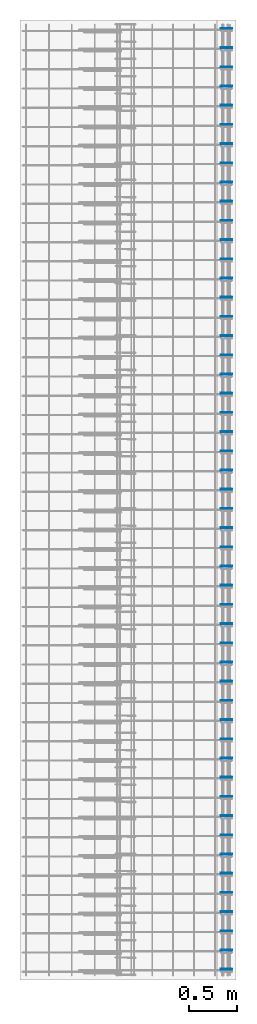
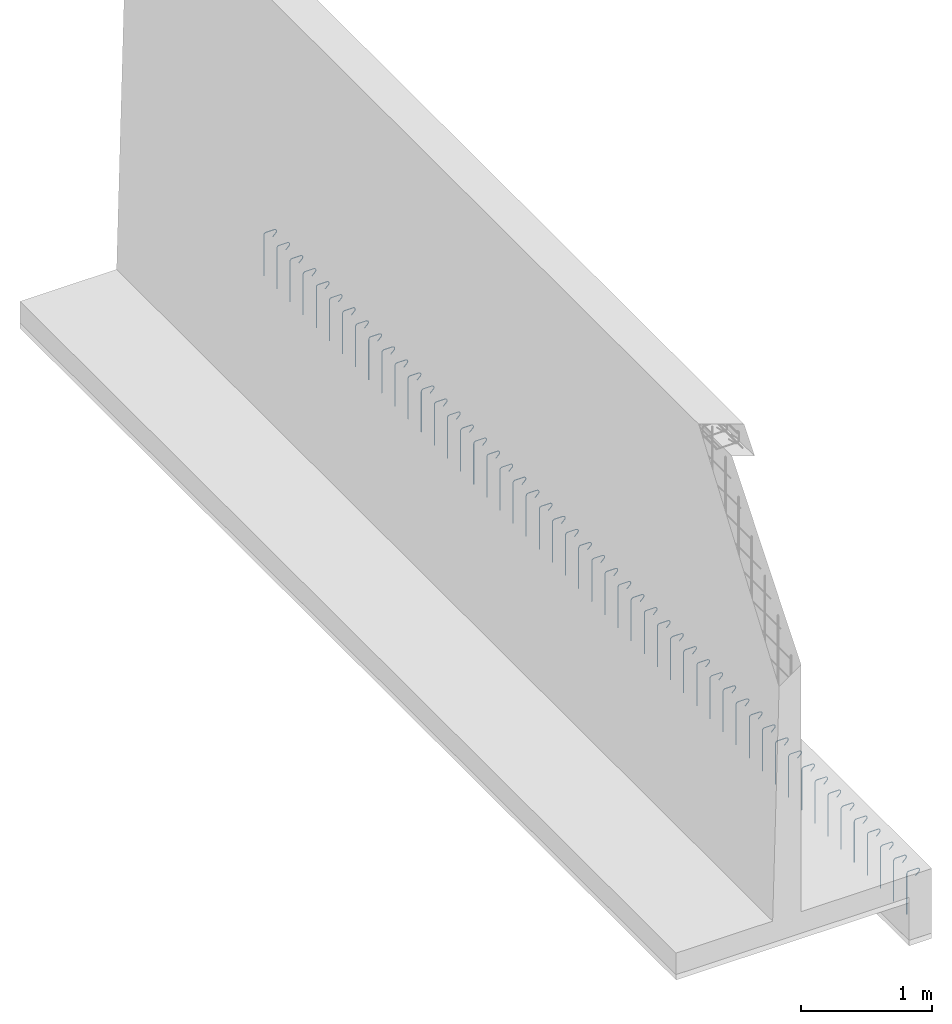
# One storey, part 3 of 4: 1 reinforcing bar.
"""IFC2X3 building model written with IfcOpenShell, lengths in millimetres."""

from ifc_helpers import new_model, entity, si_unit, converted_unit, frame, origin, origin_with_axes, place, context, subcontext, project, spatial, source, transform, mapped, material, element, save


model = new_model("IFC2X3")

# Units and contexts
model_context = context("Model", 3, precision=1e-05, world=origin())
plan_context = context("Plan", 3, precision=1e-05, world=origin())
body_context = subcontext(model_context, "Body", "Model", "MODEL_VIEW")
ifc_project = project(units=[si_unit("LENGTHUNIT", "METRE", prefix="MILLI"), converted_unit("PLANEANGLEUNIT", "DEGREE", entity("IfcPlaneAngleMeasure", 0.0174532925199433), si_unit("PLANEANGLEUNIT", "RADIAN"), dimensions=[0, 0, 0, 0, 0, 0, 0]), si_unit("AREAUNIT", "SQUARE_METRE"), si_unit("VOLUMEUNIT", "CUBIC_METRE")], contexts=[model_context, plan_context])

# Site, building, storey
site_placement = place(None, origin())
site = spatial("IfcSite", under=ifc_project, at=site_placement, Name="Leçon 3 : Ferraillage avancé", CompositionType="ELEMENT")
building_placement = place(site_placement, origin_with_axes())
building = spatial("IfcBuilding", under=site, at=building_placement, Name="01 soutènement", CompositionType="COMPLEX")
storey_placement = place(building_placement, origin_with_axes())
storey = spatial("IfcBuildingStorey", under=building, at=storey_placement, Name="corrigé", CompositionType="ELEMENT")

# Reinforcing bar
ifc_material = material(Name="haute adhérence")
shared_shape = source(origin(), body_context, "Body", "AdvancedSweptSolid", [
    entity("IfcSweptDiskSolid", entity("IfcPolyline", [entity("IfcCartesianPoint", [0.0, 0.0, 0.0]), entity("IfcCartesianPoint", [0.0, -9.094947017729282e-13, 376.8715574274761]), entity("IfcCartesianPoint", [0.4926180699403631, -9.094947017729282e-13, 380.4115813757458]), entity("IfcCartesianPoint", [1.693436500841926, -9.094947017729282e-13, 384.0541748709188]), entity("IfcCartesianPoint", [3.567499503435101, -9.094947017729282e-13, 387.4005669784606]), entity("IfcCartesianPoint", [5.857864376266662, -9.094947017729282e-13, 390.1421356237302]), entity("IfcCartesianPoint", [8.59943302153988, -9.094947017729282e-13, 392.4325004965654]), entity("IfcCartesianPoint", [11.945825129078, -9.094947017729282e-13, 394.3065634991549]), entity("IfcCartesianPoint", [15.5884186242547, -9.094947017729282e-13, 395.5073819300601]), entity("IfcCartesianPoint", [19.12844257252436, -9.094947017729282e-13, 396.0000000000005]), entity("IfcCartesianPoint", [92.87155742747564, -9.094947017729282e-13, 395.9999999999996]), entity("IfcCartesianPoint", [96.4115813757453, -9.094947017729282e-13, 395.5073819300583]), entity("IfcCartesianPoint", [100.0541748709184, -9.094947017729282e-13, 394.3065634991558]), entity("IfcCartesianPoint", [103.4005669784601, -9.094947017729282e-13, 392.4325004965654]), entity("IfcCartesianPoint", [106.1421356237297, -9.094947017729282e-13, 390.1421356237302]), entity("IfcCartesianPoint", [108.4325004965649, -9.094947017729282e-13, 387.4005669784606]), entity("IfcCartesianPoint", [110.3065634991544, -9.094947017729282e-13, 384.0541748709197]), entity("IfcCartesianPoint", [111.5073819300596, -9.094947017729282e-13, 380.4115813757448]), entity("IfcCartesianPoint", [112.0, -9.094947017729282e-13, 376.8715574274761]), entity("IfcCartesianPoint", [112.0, 0.0, 375.5638061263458]), entity("IfcCartesianPoint", [111.8708047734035, 0.0, 373.7303926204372]), entity("IfcCartesianPoint", [111.5719986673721, 0.0, 371.8845573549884]), entity("IfcCartesianPoint", [111.1021140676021, 0.0, 370.0746951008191]), entity("IfcCartesianPoint", [110.4775906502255, 0.0, 368.3463313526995]), entity("IfcCartesianPoint", [109.6970576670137, 0.0, 366.6825888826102]), entity("IfcCartesianPoint", [108.7495503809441, 0.0, 365.0705644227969]), entity("IfcCartesianPoint", [107.6556355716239, 0.0, 363.554073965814]), entity("IfcCartesianPoint", [106.4505712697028, 0.0, 362.1663000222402]), entity("IfcCartesianPoint", [77.6451043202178, 0.0, 333.3608330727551])]), 4.0, None, 0.0, 1.0),
])
reinforcing_bar_placement = place(storey_placement, frame((-19136.51127367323, 6836.40333267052, -240.0000000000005), z_axis=(0.0, 0.0, 1.0), x_axis=(1.0, 0.0, 0.0)))
element("IfcReinforcingBar", 1, at=reinforcing_bar_placement, inside=storey, material=ifc_material, BarRole="NOTDEFINED", CrossSectionArea=0.503, NominalDiameter=8.0, context=body_context, shape_type="MappedRepresentation", body=[
    mapped(shared_shape, transform((0.0, 0.0, 0.0), x_axis=(1.0, 0.0, 0.0), y_axis=(0.0, 1.0, 0.0), z_axis=(0.0, 0.0, 1.0))),
    mapped(shared_shape, transform((0.0, 200.0, 0.0), x_axis=(1.0, 0.0, 0.0), y_axis=(0.0, 1.0, 0.0), z_axis=(0.0, 0.0, 1.0))),
    mapped(shared_shape, transform((0.0, 400.0, 0.0), x_axis=(1.0, 0.0, 0.0), y_axis=(0.0, 1.0, 0.0), z_axis=(0.0, 0.0, 1.0))),
    mapped(shared_shape, transform((0.0, 600.0, 0.0), x_axis=(1.0, 0.0, 0.0), y_axis=(0.0, 1.0, 0.0), z_axis=(0.0, 0.0, 1.0))),
    mapped(shared_shape, transform((0.0, 800.0, 0.0), x_axis=(1.0, 0.0, 0.0), y_axis=(0.0, 1.0, 0.0), z_axis=(0.0, 0.0, 1.0))),
    mapped(shared_shape, transform((0.0, 1000.0, 0.0), x_axis=(1.0, 0.0, 0.0), y_axis=(0.0, 1.0, 0.0), z_axis=(0.0, 0.0, 1.0))),
    mapped(shared_shape, transform((0.0, 1200.0, 0.0), x_axis=(1.0, 0.0, 0.0), y_axis=(0.0, 1.0, 0.0), z_axis=(0.0, 0.0, 1.0))),
    mapped(shared_shape, transform((0.0, 1400.000000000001, 0.0), x_axis=(1.0, 0.0, 0.0), y_axis=(0.0, 1.0, 0.0), z_axis=(0.0, 0.0, 1.0))),
    mapped(shared_shape, transform((0.0, 1600.000000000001, 0.0), x_axis=(1.0, 0.0, 0.0), y_axis=(0.0, 1.0, 0.0), z_axis=(0.0, 0.0, 1.0))),
    mapped(shared_shape, transform((0.0, 1800.000000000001, 0.0), x_axis=(1.0, 0.0, 0.0), y_axis=(0.0, 1.0, 0.0), z_axis=(0.0, 0.0, 1.0))),
    mapped(shared_shape, transform((0.0, 2000.000000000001, 0.0), x_axis=(1.0, 0.0, 0.0), y_axis=(0.0, 1.0, 0.0), z_axis=(0.0, 0.0, 1.0))),
    mapped(shared_shape, transform((0.0, 2200.000000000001, 0.0), x_axis=(1.0, 0.0, 0.0), y_axis=(0.0, 1.0, 0.0), z_axis=(0.0, 0.0, 1.0))),
    mapped(shared_shape, transform((0.0, 2400.000000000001, 0.0), x_axis=(1.0, 0.0, 0.0), y_axis=(0.0, 1.0, 0.0), z_axis=(0.0, 0.0, 1.0))),
    mapped(shared_shape, transform((0.0, 2600.000000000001, 0.0), x_axis=(1.0, 0.0, 0.0), y_axis=(0.0, 1.0, 0.0), z_axis=(0.0, 0.0, 1.0))),
    mapped(shared_shape, transform((0.0, 2800.000000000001, 0.0), x_axis=(1.0, 0.0, 0.0), y_axis=(0.0, 1.0, 0.0), z_axis=(0.0, 0.0, 1.0))),
    mapped(shared_shape, transform((0.0, 3000.000000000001, 0.0), x_axis=(1.0, 0.0, 0.0), y_axis=(0.0, 1.0, 0.0), z_axis=(0.0, 0.0, 1.0))),
    mapped(shared_shape, transform((0.0, 3200.000000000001, 0.0), x_axis=(1.0, 0.0, 0.0), y_axis=(0.0, 1.0, 0.0), z_axis=(0.0, 0.0, 1.0))),
    mapped(shared_shape, transform((0.0, 3400.000000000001, 0.0), x_axis=(1.0, 0.0, 0.0), y_axis=(0.0, 1.0, 0.0), z_axis=(0.0, 0.0, 1.0))),
    mapped(shared_shape, transform((0.0, 3600.000000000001, 0.0), x_axis=(1.0, 0.0, 0.0), y_axis=(0.0, 1.0, 0.0), z_axis=(0.0, 0.0, 1.0))),
    mapped(shared_shape, transform((0.0, 3800.000000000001, 0.0), x_axis=(1.0, 0.0, 0.0), y_axis=(0.0, 1.0, 0.0), z_axis=(0.0, 0.0, 1.0))),
    mapped(shared_shape, transform((0.0, 4000.000000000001, 0.0), x_axis=(1.0, 0.0, 0.0), y_axis=(0.0, 1.0, 0.0), z_axis=(0.0, 0.0, 1.0))),
    mapped(shared_shape, transform((0.0, 4200.000000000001, 0.0), x_axis=(1.0, 0.0, 0.0), y_axis=(0.0, 1.0, 0.0), z_axis=(0.0, 0.0, 1.0))),
    mapped(shared_shape, transform((0.0, 4400.000000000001, 0.0), x_axis=(1.0, 0.0, 0.0), y_axis=(0.0, 1.0, 0.0), z_axis=(0.0, 0.0, 1.0))),
    mapped(shared_shape, transform((0.0, 4600.000000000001, 0.0), x_axis=(1.0, 0.0, 0.0), y_axis=(0.0, 1.0, 0.0), z_axis=(0.0, 0.0, 1.0))),
    mapped(shared_shape, transform((0.0, 4800.000000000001, 0.0), x_axis=(1.0, 0.0, 0.0), y_axis=(0.0, 1.0, 0.0), z_axis=(0.0, 0.0, 1.0))),
    mapped(shared_shape, transform((0.0, 5000.000000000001, 0.0), x_axis=(1.0, 0.0, 0.0), y_axis=(0.0, 1.0, 0.0), z_axis=(0.0, 0.0, 1.0))),
    mapped(shared_shape, transform((0.0, 5200.000000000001, 0.0), x_axis=(1.0, 0.0, 0.0), y_axis=(0.0, 1.0, 0.0), z_axis=(0.0, 0.0, 1.0))),
    mapped(shared_shape, transform((0.0, 5400.000000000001, 0.0), x_axis=(1.0, 0.0, 0.0), y_axis=(0.0, 1.0, 0.0), z_axis=(0.0, 0.0, 1.0))),
    mapped(shared_shape, transform((0.0, 5600.000000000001, 0.0), x_axis=(1.0, 0.0, 0.0), y_axis=(0.0, 1.0, 0.0), z_axis=(0.0, 0.0, 1.0))),
    mapped(shared_shape, transform((0.0, 5800.000000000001, 0.0), x_axis=(1.0, 0.0, 0.0), y_axis=(0.0, 1.0, 0.0), z_axis=(0.0, 0.0, 1.0))),
    mapped(shared_shape, transform((0.0, 6000.000000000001, 0.0), x_axis=(1.0, 0.0, 0.0), y_axis=(0.0, 1.0, 0.0), z_axis=(0.0, 0.0, 1.0))),
    mapped(shared_shape, transform((0.0, 6200.000000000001, 0.0), x_axis=(1.0, 0.0, 0.0), y_axis=(0.0, 1.0, 0.0), z_axis=(0.0, 0.0, 1.0))),
    mapped(shared_shape, transform((0.0, 6400.000000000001, 0.0), x_axis=(1.0, 0.0, 0.0), y_axis=(0.0, 1.0, 0.0), z_axis=(0.0, 0.0, 1.0))),
    mapped(shared_shape, transform((0.0, 6600.000000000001, 0.0), x_axis=(1.0, 0.0, 0.0), y_axis=(0.0, 1.0, 0.0), z_axis=(0.0, 0.0, 1.0))),
    mapped(shared_shape, transform((0.0, 6800.000000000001, 0.0), x_axis=(1.0, 0.0, 0.0), y_axis=(0.0, 1.0, 0.0), z_axis=(0.0, 0.0, 1.0))),
    mapped(shared_shape, transform((0.0, 7000.000000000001, 0.0), x_axis=(1.0, 0.0, 0.0), y_axis=(0.0, 1.0, 0.0), z_axis=(0.0, 0.0, 1.0))),
    mapped(shared_shape, transform((0.0, 7200.000000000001, 0.0), x_axis=(1.0, 0.0, 0.0), y_axis=(0.0, 1.0, 0.0), z_axis=(0.0, 0.0, 1.0))),
    mapped(shared_shape, transform((0.0, 7400.000000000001, 0.0), x_axis=(1.0, 0.0, 0.0), y_axis=(0.0, 1.0, 0.0), z_axis=(0.0, 0.0, 1.0))),
    mapped(shared_shape, transform((0.0, 7600.000000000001, 0.0), x_axis=(1.0, 0.0, 0.0), y_axis=(0.0, 1.0, 0.0), z_axis=(0.0, 0.0, 1.0))),
    mapped(shared_shape, transform((0.0, 7800.000000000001, 0.0), x_axis=(1.0, 0.0, 0.0), y_axis=(0.0, 1.0, 0.0), z_axis=(0.0, 0.0, 1.0))),
    mapped(shared_shape, transform((0.0, 8000.000000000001, 0.0), x_axis=(1.0, 0.0, 0.0), y_axis=(0.0, 1.0, 0.0), z_axis=(0.0, 0.0, 1.0))),
    mapped(shared_shape, transform((0.0, 8200.0, 0.0), x_axis=(1.0, 0.0, 0.0), y_axis=(0.0, 1.0, 0.0), z_axis=(0.0, 0.0, 1.0))),
    mapped(shared_shape, transform((0.0, 8400.0, 0.0), x_axis=(1.0, 0.0, 0.0), y_axis=(0.0, 1.0, 0.0), z_axis=(0.0, 0.0, 1.0))),
    mapped(shared_shape, transform((0.0, 8600.0, 0.0), x_axis=(1.0, 0.0, 0.0), y_axis=(0.0, 1.0, 0.0), z_axis=(0.0, 0.0, 1.0))),
    mapped(shared_shape, transform((0.0, 8800.0, 0.0), x_axis=(1.0, 0.0, 0.0), y_axis=(0.0, 1.0, 0.0), z_axis=(0.0, 0.0, 1.0))),
    mapped(shared_shape, transform((0.0, 9000.0, 0.0), x_axis=(1.0, 0.0, 0.0), y_axis=(0.0, 1.0, 0.0), z_axis=(0.0, 0.0, 1.0))),
    mapped(shared_shape, transform((0.0, 9200.0, 0.0), x_axis=(1.0, 0.0, 0.0), y_axis=(0.0, 1.0, 0.0), z_axis=(0.0, 0.0, 1.0))),
    mapped(shared_shape, transform((0.0, 9400.0, 0.0), x_axis=(1.0, 0.0, 0.0), y_axis=(0.0, 1.0, 0.0), z_axis=(0.0, 0.0, 1.0))),
    mapped(shared_shape, transform((0.0, 9600.0, 0.0), x_axis=(1.0, 0.0, 0.0), y_axis=(0.0, 1.0, 0.0), z_axis=(0.0, 0.0, 1.0))),
    mapped(shared_shape, transform((0.0, 9800.0, 0.0), x_axis=(1.0, 0.0, 0.0), y_axis=(0.0, 1.0, 0.0), z_axis=(0.0, 0.0, 1.0))),
])

save(model, "model.ifc")
